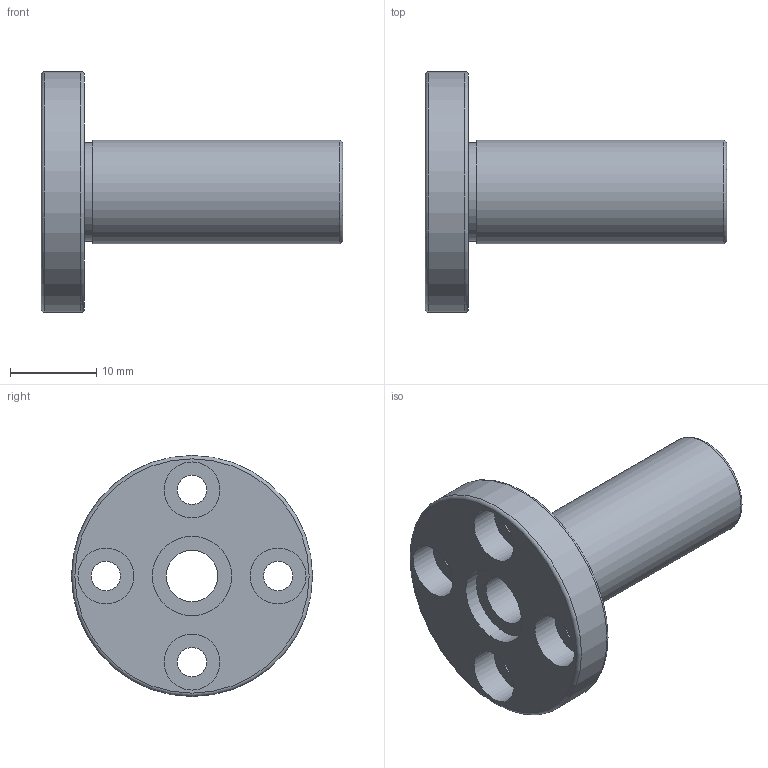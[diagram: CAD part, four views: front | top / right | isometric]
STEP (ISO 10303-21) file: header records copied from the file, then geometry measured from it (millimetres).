
FILE_DESCRIPTION( ( 'Unknown' ), '1' );
FILE_NAME( 'D:/累诀/己绕皋墨飘肺葱胶/11-04-06_档搁累己/01_府聪绢何教/LMF L/LMF 6L.stp', 'Unknown', ( 'Unknown' ), ( 'Unknown' ), 'PSStep 11.0', 'Unknown', ' ' );
FILE_SCHEMA( ( 'AUTOMOTIVE_DESIGN { 1 0 10303 214 1 1 1 1 }' ) );
Length unit declared in the file: millimetre
Products named in the file (1): 1
Bounding box: 35 x 28 x 28 mm (x, y, z)
Volume: 4830.3 mm3; surface area: 3693.5 mm2
Topology: 1 solids, 1 shells, 27 faces, 52 edges, 35 vertices
Faces by surface type: cylinder 14, plane 10, torus 3
Full cylindrical faces by diameter (mm): 3.4 x4, 6 x1, 6.5 x4, 9.2 x2, 11.4 x1, 12 x1, 28 x1
Entity records: 836 total; most frequent: DIRECTION 118, CARTESIAN_POINT 90, EDGE_LOOP 62, ORIENTED_EDGE 62, AXIS2_PLACEMENT_3D 59, FACE_OUTER_BOUND 44, EDGE_CURVE 31, VERTEX_POINT 31
